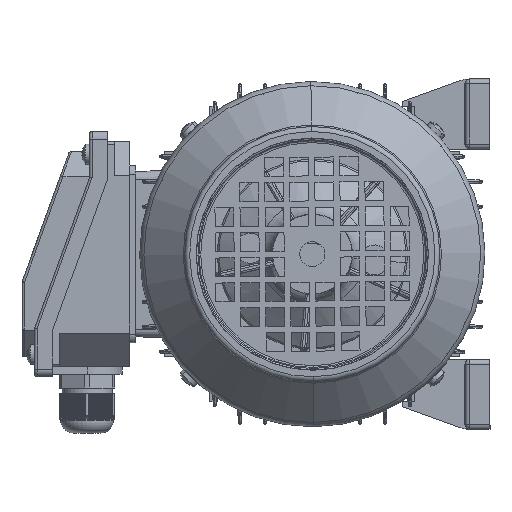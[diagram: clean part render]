
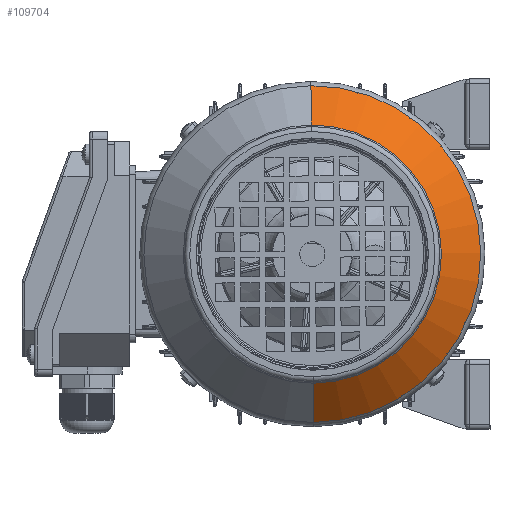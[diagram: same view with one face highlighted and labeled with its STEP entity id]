
A CAD part, left-side view. The second image highlights one B-rep face of the part: STEP entity #109704.
In plain terms, the highlighted conical face has half-angle 45 degrees and reference radius 51.586 mm.
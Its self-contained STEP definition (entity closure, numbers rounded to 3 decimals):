
#5876 = AXIS2_PLACEMENT_3D ( 'NONE', #151112, #27025, #37805 ) ;
#8775 = VECTOR ( 'NONE', #74167, 1000. ) ;
#8829 = EDGE_CURVE ( 'NONE', #71629, #59965, #54119, .T. ) ;
#11329 = LINE ( 'NONE', #23729, #8775 ) ;
#11720 = CARTESIAN_POINT ( 'NONE',  ( -97.74, -3.402, -67.284 ) ) ;
#18517 = FACE_OUTER_BOUND ( 'NONE', #136252, .T. ) ;
#23729 = CARTESIAN_POINT ( 'NONE',  ( -113.441, -2.449, 51.584 ) ) ;
#27025 = DIRECTION ( 'NONE',  ( 1., 0., 0. ) ) ;
#31420 = DIRECTION ( 'NONE',  ( 0., -0.008, -1. ) ) ;
#37805 = DIRECTION ( 'NONE',  ( 0., -0.008, -1. ) ) ;
#44648 = CARTESIAN_POINT ( 'NONE',  ( -113.441, -2.862, 0. ) ) ;
#44718 = ORIENTED_EDGE ( 'NONE', *, *, #106133, .T. ) ;
#54119 = LINE ( 'NONE', #143391, #156350 ) ;
#59025 = AXIS2_PLACEMENT_3D ( 'NONE', #44648, #81873, #31420 ) ;
#59965 = VERTEX_POINT ( 'NONE', #11720 ) ;
#63258 = CARTESIAN_POINT ( 'NONE',  ( -113.441, -3.276, -51.584 ) ) ;
#71629 = VERTEX_POINT ( 'NONE', #63258 ) ;
#74167 = DIRECTION ( 'NONE',  ( 0.707, 0.006, 0.707 ) ) ;
#79748 = CARTESIAN_POINT ( 'NONE',  ( -113.441, -2.862, 0. ) ) ;
#81873 = DIRECTION ( 'NONE',  ( 1., 0., 0. ) ) ;
#87075 = CARTESIAN_POINT ( 'NONE',  ( -97.74, -2.323, 67.284 ) ) ;
#88856 = AXIS2_PLACEMENT_3D ( 'NONE', #79748, #94592, #156634 ) ;
#91041 = CARTESIAN_POINT ( 'NONE',  ( -113.441, -2.449, 51.584 ) ) ;
#93313 = VERTEX_POINT ( 'NONE', #87075 ) ;
#94592 = DIRECTION ( 'NONE',  ( 1., 0., 0. ) ) ;
#100134 = ORIENTED_EDGE ( 'NONE', *, *, #8829, .T. ) ;
#103949 = ORIENTED_EDGE ( 'NONE', *, *, #159694, .F. ) ;
#104538 = DIRECTION ( 'NONE',  ( 0.707, -0.006, -0.707 ) ) ;
#106133 = EDGE_CURVE ( 'NONE', #127007, #71629, #159373, .T. ) ;
#109704 = ADVANCED_FACE ( 'NONE', ( #18517 ), #160195, .T. ) ;
#122146 = CIRCLE ( 'NONE', #5876, 67.287 ) ;
#126225 = EDGE_CURVE ( 'NONE', #93313, #59965, #122146, .T. ) ;
#127007 = VERTEX_POINT ( 'NONE', #91041 ) ;
#133394 = ORIENTED_EDGE ( 'NONE', *, *, #126225, .F. ) ;
#136252 = EDGE_LOOP ( 'NONE', ( #103949, #44718, #100134, #133394 ) ) ;
#143391 = CARTESIAN_POINT ( 'NONE',  ( -113.441, -3.276, -51.584 ) ) ;
#151112 = CARTESIAN_POINT ( 'NONE',  ( -97.74, -2.862, 0. ) ) ;
#156350 = VECTOR ( 'NONE', #104538, 1000. ) ;
#156634 = DIRECTION ( 'NONE',  ( 0., -0.008, -1. ) ) ;
#159373 = CIRCLE ( 'NONE', #59025, 51.586 ) ;
#159694 = EDGE_CURVE ( 'NONE', #127007, #93313, #11329, .T. ) ;
#160195 = CONICAL_SURFACE ( 'NONE', #88856, 51.586, 0.785 ) ;
